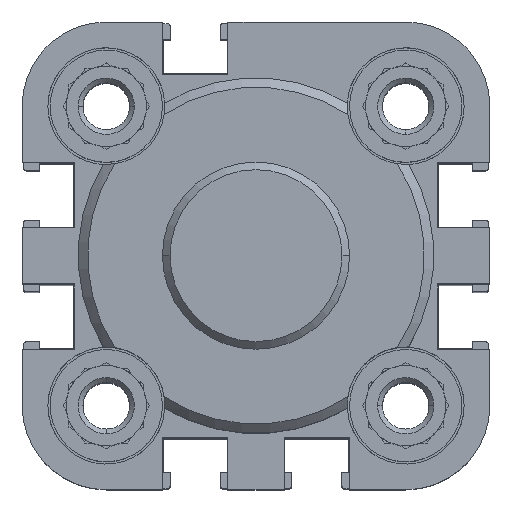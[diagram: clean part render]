
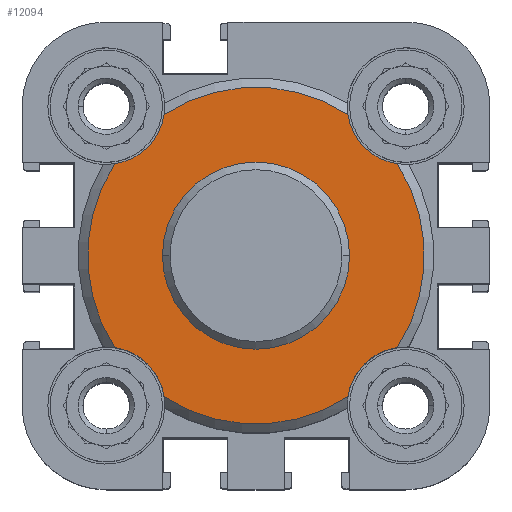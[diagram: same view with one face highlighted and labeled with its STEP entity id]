
A CAD part, top view. The second image highlights one B-rep face of the part: STEP entity #12094.
In plain terms, the highlighted planar face has unit normal (0, 0, 1).
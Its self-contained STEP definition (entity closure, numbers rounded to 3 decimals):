
#1193=CARTESIAN_POINT('',(0.,0.,28.));
#1194=DIRECTION('',(0.,0.,1.));
#1195=DIRECTION('',(0.545,0.838,0.));
#1196=AXIS2_PLACEMENT_3D('',#1193,#1194,#1195);
#1297=CARTESIAN_POINT('',(0.,0.,28.));
#1298=DIRECTION('',(0.,0.,1.));
#1299=DIRECTION('',(-0.545,-0.838,0.));
#1300=AXIS2_PLACEMENT_3D('',#1297,#1298,#1299);
#1325=CARTESIAN_POINT('',(-16.,16.,28.));
#1326=DIRECTION('',(0.,0.,1.));
#1327=DIRECTION('',(0.146,-0.989,0.));
#1328=AXIS2_PLACEMENT_3D('',#1325,#1326,#1327);
#1333=CARTESIAN_POINT('',(16.,16.,28.));
#1334=DIRECTION('',(0.,0.,1.));
#1335=DIRECTION('',(-0.989,-0.146,0.));
#1336=AXIS2_PLACEMENT_3D('',#1333,#1334,#1335);
#1341=CARTESIAN_POINT('',(0.,0.,28.));
#1342=DIRECTION('',(0.,0.,1.));
#1343=DIRECTION('',(0.838,-0.545,0.));
#1344=AXIS2_PLACEMENT_3D('',#1341,#1342,#1343);
#1349=CARTESIAN_POINT('',(16.,-16.,28.));
#1350=DIRECTION('',(0.,0.,1.));
#1351=DIRECTION('',(-0.146,0.989,0.));
#1352=AXIS2_PLACEMENT_3D('',#1349,#1350,#1351);
#1357=CARTESIAN_POINT('',(-16.,-16.,28.));
#1358=DIRECTION('',(0.,0.,1.));
#1359=DIRECTION('',(0.989,0.146,0.));
#1360=AXIS2_PLACEMENT_3D('',#1357,#1358,#1359);
#1365=CARTESIAN_POINT('',(0.,0.,28.));
#1366=DIRECTION('',(0.,0.,1.));
#1367=DIRECTION('',(-0.838,0.545,0.));
#1368=AXIS2_PLACEMENT_3D('',#1365,#1366,#1367);
#1373=CARTESIAN_POINT('',(0.,0.,28.));
#1374=DIRECTION('',(0.,0.,1.));
#1375=DIRECTION('',(1.,0.,0.));
#1376=AXIS2_PLACEMENT_3D('',#1373,#1374,#1375);
#1381=CARTESIAN_POINT('',(0.,0.,28.));
#1382=DIRECTION('',(0.,0.,1.));
#1383=DIRECTION('',(-1.,0.,0.));
#1384=AXIS2_PLACEMENT_3D('',#1381,#1382,#1383);
#10276=CARTESIAN_POINT('',(-15.087,9.817,28.));
#10277=CARTESIAN_POINT('',(-9.817,15.087,28.));
#10278=VERTEX_POINT('',#10276);
#10279=VERTEX_POINT('',#10277);
#10280=CARTESIAN_POINT('',(9.817,15.087,28.));
#10281=CARTESIAN_POINT('',(15.087,9.817,28.));
#10282=VERTEX_POINT('',#10280);
#10283=VERTEX_POINT('',#10281);
#10284=CARTESIAN_POINT('',(-9.817,-15.087,28.));
#10285=CARTESIAN_POINT('',(-15.087,-9.817,28.));
#10286=VERTEX_POINT('',#10284);
#10287=VERTEX_POINT('',#10285);
#10288=CARTESIAN_POINT('',(15.087,-9.817,28.));
#10289=CARTESIAN_POINT('',(9.817,-15.087,28.));
#10290=VERTEX_POINT('',#10288);
#10291=VERTEX_POINT('',#10289);
#10332=CARTESIAN_POINT('',(10.,0.,28.));
#10333=CARTESIAN_POINT('',(-10.,0.,28.));
#10334=VERTEX_POINT('',#10332);
#10335=VERTEX_POINT('',#10333);
#12070=CARTESIAN_POINT('',(0.,0.,28.));
#12071=DIRECTION('',(0.,0.,-1.));
#12072=DIRECTION('',(0.,-1.,0.));
#12073=AXIS2_PLACEMENT_3D('',#12070,#12071,#12072);
#12074=PLANE('',#12073);
#12075=ORIENTED_EDGE('',*,*,#11928,.T.);
#12076=ORIENTED_EDGE('',*,*,#11985,.F.);
#12078=ORIENTED_EDGE('',*,*,#12077,.T.);
#12079=ORIENTED_EDGE('',*,*,#12021,.F.);
#12081=ORIENTED_EDGE('',*,*,#12080,.T.);
#12082=ORIENTED_EDGE('',*,*,#12049,.F.);
#12084=ORIENTED_EDGE('',*,*,#12083,.T.);
#12085=ORIENTED_EDGE('',*,*,#11959,.F.);
#12086=EDGE_LOOP('',(#12075,#12076,#12078,#12079,#12081,#12082,#12084,#12085));
#12087=FACE_OUTER_BOUND('',#12086,.F.);
#12089=ORIENTED_EDGE('',*,*,#12088,.T.);
#12091=ORIENTED_EDGE('',*,*,#12090,.T.);
#12092=EDGE_LOOP('',(#12089,#12091));
#12093=FACE_BOUND('',#12092,.F.);
#12094=ADVANCED_FACE('',(#12087,#12093),#12074,.F.);
#1197=CIRCLE('',#1196,18.);
#1301=CIRCLE('',#1300,18.);
#1329=CIRCLE('',#1328,6.25);
#1337=CIRCLE('',#1336,6.25);
#1345=CIRCLE('',#1344,18.);
#1353=CIRCLE('',#1352,6.25);
#1361=CIRCLE('',#1360,6.25);
#1369=CIRCLE('',#1368,18.);
#1377=CIRCLE('',#1376,10.);
#1385=CIRCLE('',#1384,10.);
#11928=EDGE_CURVE('',#10278,#10279,#1329,.T.);
#11959=EDGE_CURVE('',#10278,#10287,#1369,.T.);
#11985=EDGE_CURVE('',#10282,#10279,#1197,.T.);
#12021=EDGE_CURVE('',#10290,#10283,#1345,.T.);
#12049=EDGE_CURVE('',#10286,#10291,#1301,.T.);
#12077=EDGE_CURVE('',#10282,#10283,#1337,.T.);
#12080=EDGE_CURVE('',#10290,#10291,#1353,.T.);
#12083=EDGE_CURVE('',#10286,#10287,#1361,.T.);
#12088=EDGE_CURVE('',#10334,#10335,#1377,.T.);
#12090=EDGE_CURVE('',#10335,#10334,#1385,.T.);
